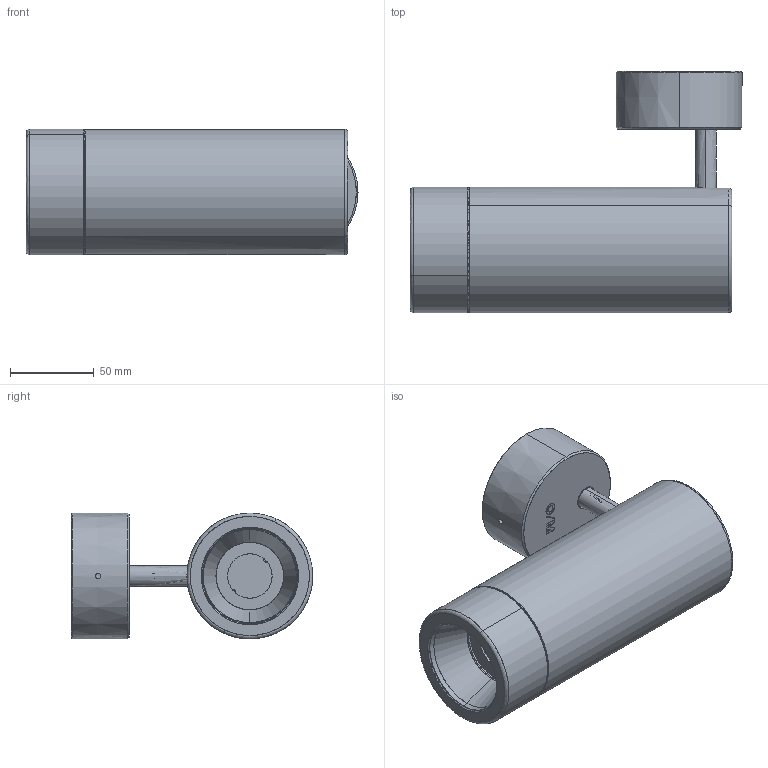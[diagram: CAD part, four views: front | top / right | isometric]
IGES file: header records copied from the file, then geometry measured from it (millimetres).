
Start section: SolidWorks IGES file using analytic representation for surfaces
Global section: file name: C:\Users\JoãoSantos\Desktop\02_3D.2D\01_2020\01_Spot On\03_Over\01_Over\01_Over\01_Medium\OVER SURFACE.IGS; native system: SolidWorks 2020; preprocessor: SolidWorks 2020; author: JoãoSantos; date: 201020.121526; units: millimetre
Bounding box: 198 x 144 x 75 mm (x, y, z)
Surface area: 167957.7 mm2 (no closed solid volume)
Topology: 0 solids, 0 shells, 486 faces, 7723 edges, 7723 vertices
Faces by surface type: bspline 256, revolution 230
